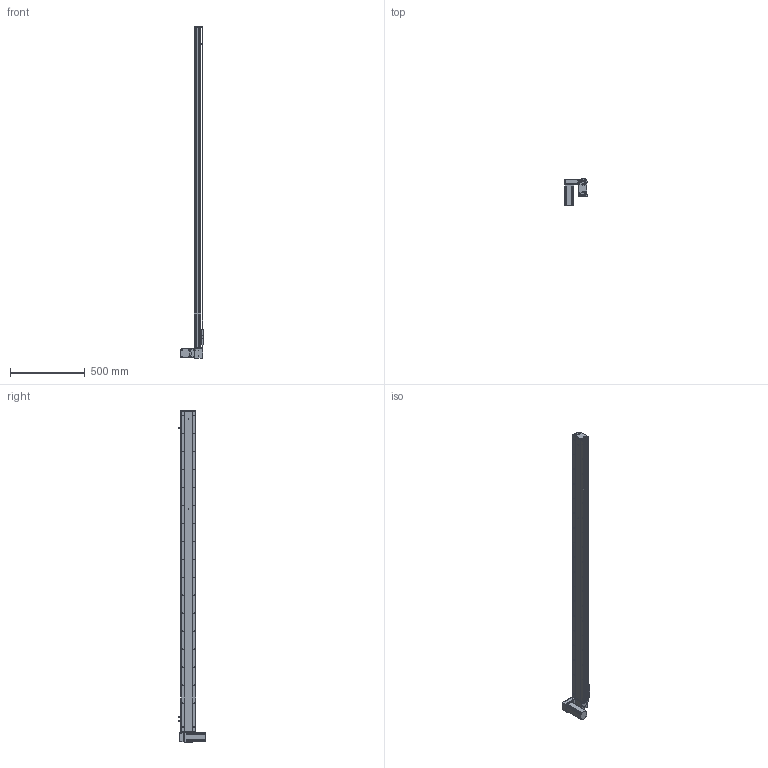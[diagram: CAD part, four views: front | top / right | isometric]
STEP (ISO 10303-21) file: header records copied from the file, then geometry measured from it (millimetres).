
FILE_DESCRIPTION (( 'STEP AP214' ), '1' );
FILE_NAME ('KSD100B-S1950-MLD-CM.STEP', '2019-11-11T03:38:30', ( '微软用户' ), ( '微软中国' ), 'SwSTEP 2.0', 'SolidWorks 2014', '' );
FILE_SCHEMA (( 'AUTOMOTIVE_DESIGN' ));
Length unit declared in the file: millimetre
Products named in the file (12): 100宽底板半封闭同步带1950行程; KSD100B-S1950-MLD-CM; 悵誘欶奻狟殏; 100宽马达安装板连板上下折丝杆同步带; 台达ECMA－C20604AS伺服电机; U倰嫖萇EEㄜSX672; 覜茼え100遵圉猾敕; 100宽防尘板1950行程-同步带; 100宽马达安装板同步带左; 100宽同步带安装板半封闭; 100宽马达安装板同步带; 100遵傷啣肮祭湍
Assembly tree (13 placements, depth 2):
  KSD100B-S1950-MLD-CM
    100宽底板半封闭同步带1950行程
    100遵傷啣肮祭湍
    100宽马达安装板同步带
    100宽同步带安装板半封闭
    100宽马达安装板同步带左
    100宽防尘板1950行程-同步带
    覜茼え100遵圉猾敕
    U倰嫖萇EEㄜSX672  x3
    台达ECMA－C20604AS伺服电机
    100宽马达安装板连板上下折丝杆同步带
    悵誘欶奻狟殏
Bounding box: 148 x 174.7 x 2215 mm (x, y, z)
Volume: 4535366.5 mm3; surface area: 1560442.2 mm2
Topology: 14 solids, 14 shells, 1741 faces, 4948 edges, 3107 vertices
Faces by surface type: cylinder 915, plane 623, cone 203
Entity records: 64409 total; most frequent: CARTESIAN_POINT 14016, DIRECTION 8656, ORIENTED_EDGE 8396, EDGE_CURVE 4198, AXIS2_PLACEMENT_3D 3197, VERTEX_POINT 2731, VECTOR 2262, LINE 2262
